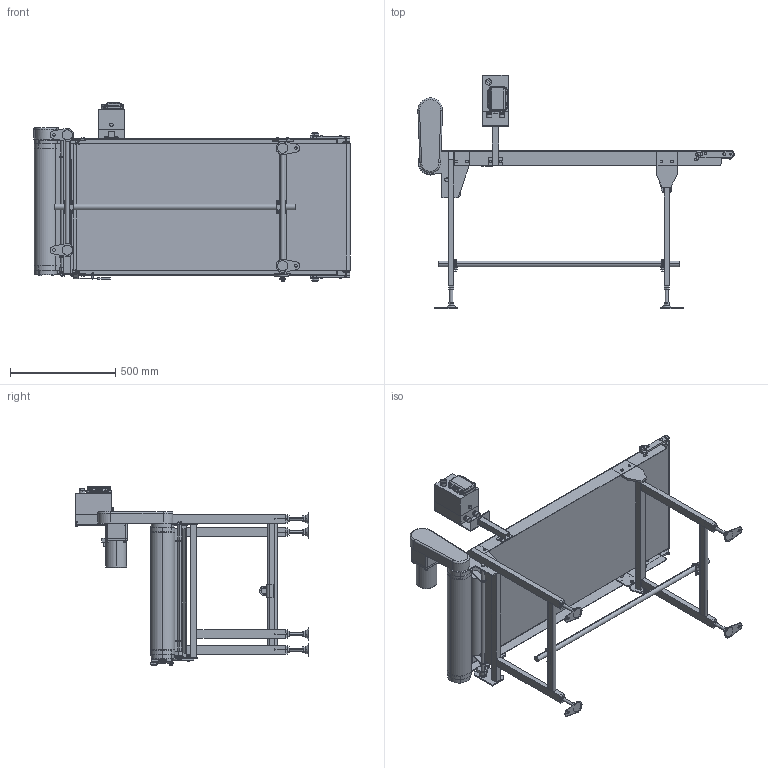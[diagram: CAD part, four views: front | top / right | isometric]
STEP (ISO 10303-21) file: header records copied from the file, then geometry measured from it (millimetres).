
FILE_DESCRIPTION (( 'STEP AP214' ), '1' );
FILE_NAME ('TBH-OD-309-600-150-L-IV-60.STEP', '2023-05-11T00:43:02', ( '' ), ( '' ), 'SwSTEP 2.0', 'SolidWorks 2017', '' );
FILE_SCHEMA (( 'AUTOMOTIVE_DESIGN' ));
Length unit declared in the file: millimetre
Products named in the file (1): TBH-OD-309-600-150-L-IV-60
Bounding box: 1505 x 1111 x 849.6 mm (x, y, z)
Volume: 26130974.1 mm3; surface area: 8167053.4 mm2
Topology: 77 solids, 77 shells, 2483 faces, 5999 edges, 3811 vertices
Faces by surface type: plane 1354, cylinder 715, cone 176, bspline 148, torus 80, sphere 10
Entity records: 78382 total; most frequent: CARTESIAN_POINT 19313, DIRECTION 12192, ORIENTED_EDGE 11950, EDGE_CURVE 5975, AXIS2_PLACEMENT_3D 4357, VERTEX_POINT 3811, VECTOR 3478, LINE 3478
